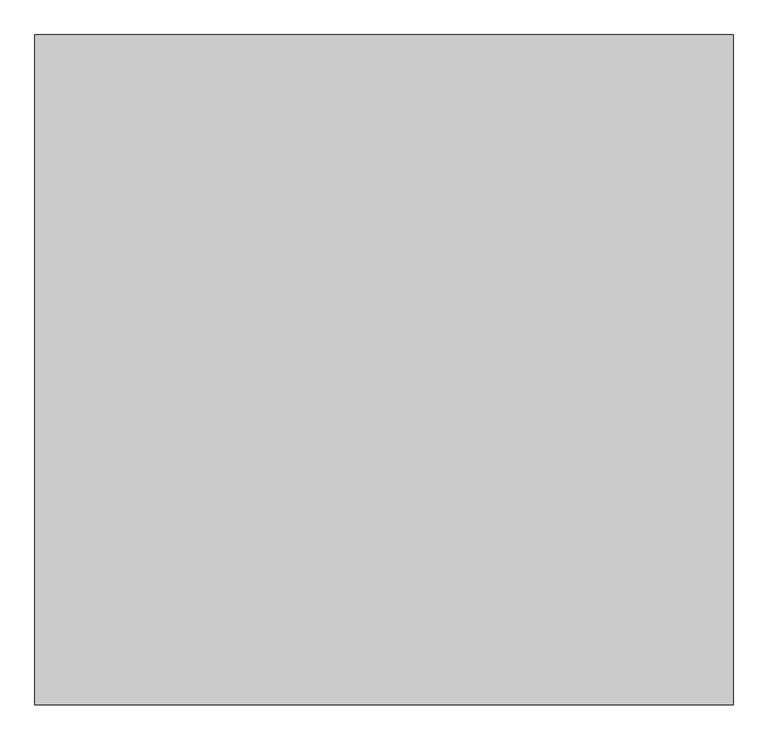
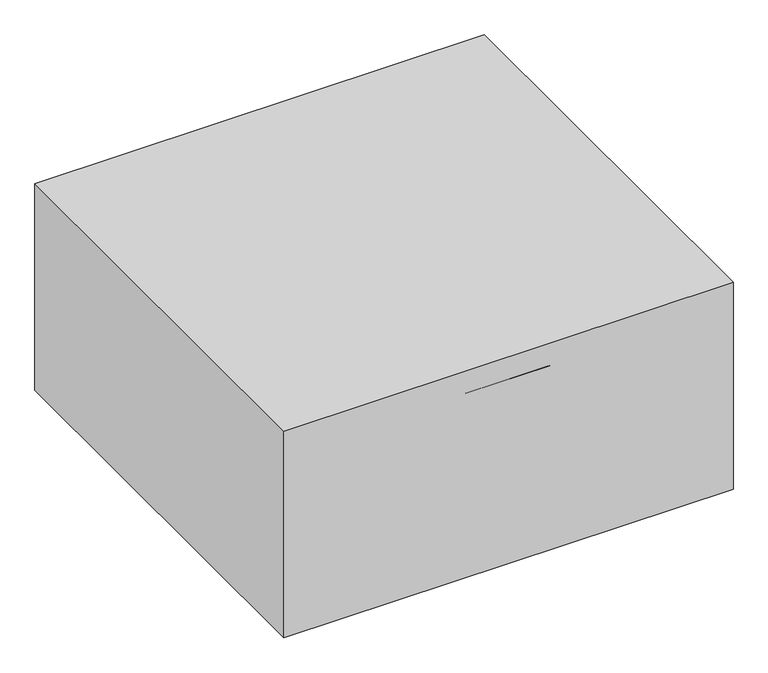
"""IFC4 building model written with IfcOpenShell, lengths in millimetres: furniture geometry, BIMHealth-Chair_Dialysis-LOD2A-v1 : BIMHealth-Chair_Dialysis-LOD2A-v1."""

from ifc_helpers import new_model, si_unit, point, frame, frame_2d, origin, origin_with_axes, place, context, project, spatial, polyline, circle_curve, trimmed, segment, composite_curve, outline, extrude, source, transform, mapped, element, save


def furniture_ab3baf91(model_context):
    return source(origin(), model_context, "Body", "SweptSolid", [
        extrude(outline(composite_curve([segment(trimmed(circle_curve(frame_2d((302.7936384, -540.0)), 7.5), [point((310.2936384, -540.0))], [point((295.2936384, -540.0))], False, "CARTESIAN"), True, "CONTINUOUS"), segment(trimmed(circle_curve(frame_2d((302.7936384, -540.0)), 7.5), [point((295.2936384, -540.0))], [point((310.2936384, -540.0))], False, "CARTESIAN"), True, "CONTINUOUS")], self_intersect=False)), frame((0.0, 0.0, 102.2775188), z_axis=(0.0, 0.0, 1.0), x_axis=(1.0, 0.0, 0.0)), (0.0, 0.0, 1.0), 20.0),
        extrude(outline(composite_curve([segment(polyline([(-569.2564005, 102.2775188), (-510.7435995, 102.2775188), (-510.7435995, 80.5470471)]), True, "CONTINUOUS"), segment(trimmed(circle_curve(frame_2d((-540.0, 40.0)), 50.0), [point((-510.7435995, 80.5470471))], [point((-569.2564005, 80.5470471))], True, "CARTESIAN"), True, "CONTINUOUS"), segment(polyline([(-569.2564005, 80.5470471), (-569.2564005, 102.2775188)]), True, "CONTINUOUS")], self_intersect=False)), frame((280.1679747, 0.0, 0.0), z_axis=(1.0, 0.0, 0.0), x_axis=(0.0, 1.0, 0.0)), (0.0, 0.0, 1.0), 45.2513275),
        extrude(outline(composite_curve([segment(polyline([(-580.0, 40.0), (-590.0, 40.0)]), True, "CONTINUOUS"), segment(trimmed(circle_curve(frame_2d((-540.0, 40.0)), 50.0), [point((-590.0, 40.0))], [point((-490.0, 40.0))], False, "CARTESIAN"), True, "CONTINUOUS"), segment(polyline([(-490.0, 40.0), (-500.0, 40.0)]), True, "CONTINUOUS"), segment(trimmed(circle_curve(frame_2d((-540.0, 40.0)), 40.0), [point((-500.0, 40.0))], [point((-580.0, 40.0))], True, "CARTESIAN"), True, "CONTINUOUS")], self_intersect=False)), frame((265.0, 0.0, 0.0), z_axis=(1.0, 0.0, 0.0), x_axis=(0.0, 1.0, 0.0)), (0.0, 0.0, 1.0), 75.0),
        extrude(outline(composite_curve([segment(trimmed(circle_curve(frame_2d((-540.0, 40.0)), 40.0), [point((-500.0, 40.0))], [point((-580.0, 40.0))], False, "CARTESIAN"), True, "CONTINUOUS"), segment(trimmed(circle_curve(frame_2d((-540.0, 40.0)), 40.0), [point((-580.0, 40.0))], [point((-500.0, 40.0))], False, "CARTESIAN"), True, "CONTINUOUS")], self_intersect=False)), frame((270.0, 0.0, 0.0), z_axis=(1.0, 0.0, 0.0), x_axis=(0.0, 1.0, 0.0)), (0.0, 0.0, 1.0), 20.0),
        extrude(outline(composite_curve([segment(trimmed(circle_curve(frame_2d((-540.0, 40.0)), 40.0), [point((-500.0, 40.0))], [point((-580.0, 40.0))], False, "CARTESIAN"), True, "CONTINUOUS"), segment(trimmed(circle_curve(frame_2d((-540.0, 40.0)), 40.0), [point((-580.0, 40.0))], [point((-500.0, 40.0))], False, "CARTESIAN"), True, "CONTINUOUS")], self_intersect=False)), frame((315.0, 0.0, 0.0), z_axis=(1.0, 0.0, 0.0), x_axis=(0.0, 1.0, 0.0)), (0.0, 0.0, 1.0), 20.0),
        extrude(outline(composite_curve([segment(trimmed(circle_curve(frame_2d((-302.7936384, -540.0)), 7.5), [point((-310.2936384, -540.0))], [point((-295.2936384, -540.0))], False, "CARTESIAN"), True, "CONTINUOUS"), segment(trimmed(circle_curve(frame_2d((-302.7936384, -540.0)), 7.5), [point((-295.2936384, -540.0))], [point((-310.2936384, -540.0))], False, "CARTESIAN"), True, "CONTINUOUS")], self_intersect=False)), frame((0.0, 0.0, 102.2775188), z_axis=(0.0, 0.0, 1.0), x_axis=(1.0, 0.0, 0.0)), (0.0, 0.0, 1.0), 20.0),
        extrude(outline(composite_curve([segment(polyline([(-569.2564005, 102.2775188), (-510.7435995, 102.2775188), (-510.7435995, 80.5470471)]), True, "CONTINUOUS"), segment(trimmed(circle_curve(frame_2d((-540.0, 40.0)), 50.0), [point((-510.7435995, 80.5470471))], [point((-569.2564005, 80.5470471))], True, "CARTESIAN"), True, "CONTINUOUS"), segment(polyline([(-569.2564005, 80.5470471), (-569.2564005, 102.2775188)]), True, "CONTINUOUS")], self_intersect=False)), frame((-325.4193021, 0.0, 0.0), z_axis=(1.0, 0.0, 0.0), x_axis=(0.0, 1.0, 0.0)), (0.0, 0.0, 1.0), 45.2513275),
        extrude(outline(composite_curve([segment(polyline([(-580.0, 40.0), (-590.0, 40.0)]), True, "CONTINUOUS"), segment(trimmed(circle_curve(frame_2d((-540.0, 40.0)), 50.0), [point((-590.0, 40.0))], [point((-490.0, 40.0))], False, "CARTESIAN"), True, "CONTINUOUS"), segment(polyline([(-490.0, 40.0), (-500.0, 40.0)]), True, "CONTINUOUS"), segment(trimmed(circle_curve(frame_2d((-540.0, 40.0)), 40.0), [point((-500.0, 40.0))], [point((-580.0, 40.0))], True, "CARTESIAN"), True, "CONTINUOUS")], self_intersect=False)), frame((-340.0, 0.0, 0.0), z_axis=(1.0, 0.0, 0.0), x_axis=(0.0, 1.0, 0.0)), (0.0, 0.0, 1.0), 75.0),
        extrude(outline(composite_curve([segment(trimmed(circle_curve(frame_2d((-540.0, 40.0)), 40.0), [point((-500.0, 40.0))], [point((-580.0, 40.0))], False, "CARTESIAN"), True, "CONTINUOUS"), segment(trimmed(circle_curve(frame_2d((-540.0, 40.0)), 40.0), [point((-580.0, 40.0))], [point((-500.0, 40.0))], False, "CARTESIAN"), True, "CONTINUOUS")], self_intersect=False)), frame((-290.0, 0.0, 0.0), z_axis=(1.0, 0.0, 0.0), x_axis=(0.0, 1.0, 0.0)), (0.0, 0.0, 1.0), 20.0),
        extrude(outline(composite_curve([segment(trimmed(circle_curve(frame_2d((-540.0, 40.0)), 40.0), [point((-500.0, 40.0))], [point((-580.0, 40.0))], False, "CARTESIAN"), True, "CONTINUOUS"), segment(trimmed(circle_curve(frame_2d((-540.0, 40.0)), 40.0), [point((-580.0, 40.0))], [point((-500.0, 40.0))], False, "CARTESIAN"), True, "CONTINUOUS")], self_intersect=False)), frame((-335.0, 0.0, 0.0), z_axis=(1.0, 0.0, 0.0), x_axis=(0.0, 1.0, 0.0)), (0.0, 0.0, 1.0), 20.0),
        extrude(outline(composite_curve([segment(trimmed(circle_curve(frame_2d((302.7936384, 540.0)), 7.5), [point((310.2936384, 540.0))], [point((295.2936384, 540.0))], False, "CARTESIAN"), True, "CONTINUOUS"), segment(trimmed(circle_curve(frame_2d((302.7936384, 540.0)), 7.5), [point((295.2936384, 540.0))], [point((310.2936384, 540.0))], False, "CARTESIAN"), True, "CONTINUOUS")], self_intersect=False)), frame((0.0, 0.0, 102.2775188), z_axis=(0.0, 0.0, 1.0), x_axis=(1.0, 0.0, 0.0)), (0.0, 0.0, 1.0), 20.0),
        extrude(outline(composite_curve([segment(polyline([(569.2564005, 102.2775188), (569.2564005, 80.5470471)]), True, "CONTINUOUS"), segment(trimmed(circle_curve(frame_2d((540.0, 40.0)), 50.0), [point((569.2564005, 80.5470471))], [point((510.7435995, 80.5470471))], True, "CARTESIAN"), True, "CONTINUOUS"), segment(polyline([(510.7435995, 80.5470471), (510.7435995, 102.2775188), (569.2564005, 102.2775188)]), True, "CONTINUOUS")], self_intersect=False)), frame((280.1679747, 0.0, 0.0), z_axis=(1.0, 0.0, 0.0), x_axis=(0.0, 1.0, 0.0)), (0.0, 0.0, 1.0), 45.2513275),
        extrude(outline(composite_curve([segment(trimmed(circle_curve(frame_2d((540.0, 40.0)), 40.0), [point((580.0, 40.0))], [point((500.0, 40.0))], True, "CARTESIAN"), True, "CONTINUOUS"), segment(polyline([(500.0, 40.0), (490.0, 40.0)]), True, "CONTINUOUS"), segment(trimmed(circle_curve(frame_2d((540.0, 40.0)), 50.0), [point((490.0, 40.0))], [point((590.0, 40.0))], False, "CARTESIAN"), True, "CONTINUOUS"), segment(polyline([(590.0, 40.0), (580.0, 40.0)]), True, "CONTINUOUS")], self_intersect=False)), frame((265.0, 0.0, 0.0), z_axis=(1.0, 0.0, 0.0), x_axis=(0.0, 1.0, 0.0)), (0.0, 0.0, 1.0), 75.0),
        extrude(outline(composite_curve([segment(trimmed(circle_curve(frame_2d((540.0, 40.0)), 40.0), [point((500.0, 40.0))], [point((580.0, 40.0))], False, "CARTESIAN"), True, "CONTINUOUS"), segment(trimmed(circle_curve(frame_2d((540.0, 40.0)), 40.0), [point((580.0, 40.0))], [point((500.0, 40.0))], False, "CARTESIAN"), True, "CONTINUOUS")], self_intersect=False)), frame((270.0, 0.0, 0.0), z_axis=(1.0, 0.0, 0.0), x_axis=(0.0, 1.0, 0.0)), (0.0, 0.0, 1.0), 20.0),
        extrude(outline(composite_curve([segment(trimmed(circle_curve(frame_2d((540.0, 40.0)), 40.0), [point((500.0, 40.0))], [point((580.0, 40.0))], False, "CARTESIAN"), True, "CONTINUOUS"), segment(trimmed(circle_curve(frame_2d((540.0, 40.0)), 40.0), [point((580.0, 40.0))], [point((500.0, 40.0))], False, "CARTESIAN"), True, "CONTINUOUS")], self_intersect=False)), frame((315.0, 0.0, 0.0), z_axis=(1.0, 0.0, 0.0), x_axis=(0.0, 1.0, 0.0)), (0.0, 0.0, 1.0), 20.0),
        extrude(outline(composite_curve([segment(trimmed(circle_curve(frame_2d((-302.7936384, 540.0)), 7.5), [point((-310.2936384, 540.0))], [point((-295.2936384, 540.0))], False, "CARTESIAN"), True, "CONTINUOUS"), segment(trimmed(circle_curve(frame_2d((-302.7936384, 540.0)), 7.5), [point((-295.2936384, 540.0))], [point((-310.2936384, 540.0))], False, "CARTESIAN"), True, "CONTINUOUS")], self_intersect=False)), frame((0.0, 0.0, 102.2775188), z_axis=(0.0, 0.0, 1.0), x_axis=(1.0, 0.0, 0.0)), (0.0, 0.0, 1.0), 20.0),
        extrude(outline(composite_curve([segment(polyline([(569.2564005, 102.2775188), (569.2564005, 80.5470471)]), True, "CONTINUOUS"), segment(trimmed(circle_curve(frame_2d((540.0, 40.0)), 50.0), [point((569.2564005, 80.5470471))], [point((510.7435995, 80.5470471))], True, "CARTESIAN"), True, "CONTINUOUS"), segment(polyline([(510.7435995, 80.5470471), (510.7435995, 102.2775188), (569.2564005, 102.2775188)]), True, "CONTINUOUS")], self_intersect=False)), frame((-325.4193021, 0.0, 0.0), z_axis=(1.0, 0.0, 0.0), x_axis=(0.0, 1.0, 0.0)), (0.0, 0.0, 1.0), 45.2513275),
        extrude(outline(composite_curve([segment(trimmed(circle_curve(frame_2d((540.0, 40.0)), 40.0), [point((580.0, 40.0))], [point((500.0, 40.0))], True, "CARTESIAN"), True, "CONTINUOUS"), segment(polyline([(500.0, 40.0), (490.0, 40.0)]), True, "CONTINUOUS"), segment(trimmed(circle_curve(frame_2d((540.0, 40.0)), 50.0), [point((490.0, 40.0))], [point((590.0, 40.0))], False, "CARTESIAN"), True, "CONTINUOUS"), segment(polyline([(590.0, 40.0), (580.0, 40.0)]), True, "CONTINUOUS")], self_intersect=False)), frame((-340.0, 0.0, 0.0), z_axis=(1.0, 0.0, 0.0), x_axis=(0.0, 1.0, 0.0)), (0.0, 0.0, 1.0), 75.0),
        extrude(outline(composite_curve([segment(trimmed(circle_curve(frame_2d((540.0, 40.0)), 40.0), [point((500.0, 40.0))], [point((580.0, 40.0))], False, "CARTESIAN"), True, "CONTINUOUS"), segment(trimmed(circle_curve(frame_2d((540.0, 40.0)), 40.0), [point((580.0, 40.0))], [point((500.0, 40.0))], False, "CARTESIAN"), True, "CONTINUOUS")], self_intersect=False)), frame((-290.0, 0.0, 0.0), z_axis=(1.0, 0.0, 0.0), x_axis=(0.0, 1.0, 0.0)), (0.0, 0.0, 1.0), 20.0),
        extrude(outline(composite_curve([segment(trimmed(circle_curve(frame_2d((540.0, 40.0)), 40.0), [point((500.0, 40.0))], [point((580.0, 40.0))], False, "CARTESIAN"), True, "CONTINUOUS"), segment(trimmed(circle_curve(frame_2d((540.0, 40.0)), 40.0), [point((580.0, 40.0))], [point((500.0, 40.0))], False, "CARTESIAN"), True, "CONTINUOUS")], self_intersect=False)), frame((-335.0, 0.0, 0.0), z_axis=(1.0, 0.0, 0.0), x_axis=(0.0, 1.0, 0.0)), (0.0, 0.0, 1.0), 20.0),
        extrude(outline(composite_curve([segment(trimmed(circle_curve(frame_2d((0.0, 30.0)), 30.0), [point((-29.9999999, 30.0))], [point((0.0, 60.0))], False, "CARTESIAN"), True, "CONTINUOUS"), segment(polyline([(0.0, 60.0), (165.0, 60.0)]), True, "CONTINUOUS"), segment(trimmed(circle_curve(frame_2d((165.0, 30.0)), 30.0), [point((165.0, 60.0))], [point((195.0000001, 30.0))], False, "CARTESIAN"), True, "CONTINUOUS"), segment(polyline([(195.0000001, 30.0), (195.0000001, -210.0)]), True, "CONTINUOUS"), segment(trimmed(circle_curve(frame_2d((165.0, -210.0)), 30.0), [point((195.0000001, -210.0))], [point((165.0, -240.0))], False, "CARTESIAN"), True, "CONTINUOUS"), segment(polyline([(165.0, -240.0), (0.0, -240.0)]), True, "CONTINUOUS"), segment(trimmed(circle_curve(frame_2d((0.0, -210.0)), 30.0), [point((0.0, -240.0))], [point((-29.9999999, -210.0))], False, "CARTESIAN"), True, "CONTINUOUS"), segment(polyline([(-29.9999999, -210.0), (-29.9999999, -90.0), (-29.9999999, 30.0)]), True, "CONTINUOUS")], self_intersect=False)), frame((-90.0, 970.9632437, 196.4316417), z_axis=(0.0, -0.8290375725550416, 0.559192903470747), x_axis=(0.0, 0.559192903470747, 0.8290375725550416)), (0.0, 0.0, 1.0), 35.0),
        extrude(outline(composite_curve([segment(trimmed(circle_curve(frame_2d((0.0, 150.0)), 150.0), [point((-116.0912704, 244.9885096))], [point((27.9748094, 297.3682803))], False, "CARTESIAN"), True, "CONTINUOUS"), segment(polyline([(27.9748094, 297.3682803), (427.3401871, 221.5570521)]), True, "CONTINUOUS"), segment(trimmed(circle_curve(frame_2d((427.3401871, 164.9885096)), 56.5685425), [point((427.3401871, 221.5570521))], [point((483.9087296, 164.9885096))], False, "CARTESIAN"), True, "CONTINUOUS"), segment(polyline([(483.9087296, 164.9885096), (483.9087296, -35.0114904), (483.9087296, -235.0114904)]), True, "CONTINUOUS"), segment(trimmed(circle_curve(frame_2d((427.3401871, -235.0114904)), 56.5685425), [point((483.9087296, -235.0114904))], [point((427.3401871, -291.5800329))], False, "CARTESIAN"), True, "CONTINUOUS"), segment(polyline([(427.3401871, -291.5800329), (1.8566102, -370.0114904)]), True, "CONTINUOUS"), segment(trimmed(circle_curve(frame_2d((0.0, -220.0229808)), 150.0), [point((1.8566102, -370.0114904))], [point((-116.0912704, -315.0114904))], False, "CARTESIAN"), True, "CONTINUOUS"), segment(polyline([(-116.0912704, -315.0114904), (-116.0912704, -35.0114904), (-116.0912704, 244.9885096)]), True, "CONTINUOUS")], self_intersect=False)), frame((-35.0114904, 501.6249069, 428.5690908), z_axis=(0.0, 0.5591929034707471, 0.8290375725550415), x_axis=(0.0, 0.8290375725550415, -0.5591929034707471)), (0.0, 0.0, 1.0), 75.0),
        extrude(outline(composite_curve([segment(trimmed(circle_curve(frame_2d((-581.8484412, 1210.6019485)), 12.5938728), [point((-591.7725485, 1202.8483861))], [point((-571.9069058, 1218.3331519))], False, "CARTESIAN"), True, "CONTINUOUS"), segment(polyline([(-571.9069058, 1218.3331519), (-454.5476267, 1067.4211445)]), True, "CONTINUOUS"), segment(trimmed(circle_curve(frame_2d((-464.4717339, 1059.6675821)), 12.5938728), [point((-454.5476267, 1067.4211445))], [point((-472.0470878, 1049.6067847))], False, "CARTESIAN"), True, "CONTINUOUS"), segment(polyline([(-472.0470878, 1049.6067847), (-591.7725485, 1202.8483861)]), True, "CONTINUOUS")], self_intersect=False)), frame((-200.0, 0.0, 0.0), z_axis=(1.0, 0.0, 0.0), x_axis=(0.0, 1.0, 0.0)), (0.0, 0.0, 1.0), 400.0),
        extrude(outline(composite_curve([segment(polyline([(160.0, 0.0), (0.0, 0.0)]), True, "CONTINUOUS"), segment(trimmed(circle_curve(frame_2d((0.0, 20.0)), 20.0), [point((0.0, 0.0))], [point((-20.0, 20.0))], False, "CARTESIAN"), True, "CONTINUOUS"), segment(trimmed(circle_curve(frame_2d((655.1074172, 20.0)), 675.1074172), [point((-20.0, 20.0))], [point((30.1028283, 275.2239969))], False, "CARTESIAN"), True, "CONTINUOUS"), segment(trimmed(circle_curve(frame_2d((80.0, 252.1825397)), 54.9603175), [point((30.1028283, 275.2239969))], [point((129.5798496, 275.8990954))], False, "CARTESIAN"), True, "CONTINUOUS"), segment(trimmed(circle_curve(frame_2d((-494.5967434, 20.0)), 674.5967434), [point((129.5798496, 275.8990954))], [point((180.0, 20.0))], False, "CARTESIAN"), True, "CONTINUOUS"), segment(trimmed(circle_curve(frame_2d((160.0, 20.0)), 20.0), [point((180.0, 20.0))], [point((160.0, 0.0))], False, "CARTESIAN"), True, "CONTINUOUS")], self_intersect=False)), frame((355.0, 156.827132, 727.9431933), z_axis=(0.0, 0.6713547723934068, 0.7411361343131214), x_axis=(1.0, 0.0, 0.0)), (0.0, 0.0, 1.0), 50.0),
        extrude(outline(composite_curve([segment(trimmed(circle_curve(frame_2d((0.0, 20.0)), 20.0), [point((-20.0, 20.0))], [point((0.0, 40.0))], False, "CARTESIAN"), True, "CONTINUOUS"), segment(trimmed(circle_curve(frame_2d((0.0, -634.5967434)), 674.5967434), [point((0.0, 40.0))], [point((255.8990953, -10.4201504))], False, "CARTESIAN"), True, "CONTINUOUS"), segment(trimmed(circle_curve(frame_2d((232.1825396, -60.0)), 54.9603175), [point((255.8990953, -10.4201504))], [point((255.2239968, -109.8971717))], False, "CARTESIAN"), True, "CONTINUOUS"), segment(trimmed(circle_curve(frame_2d((0.0, 515.1074172)), 675.1074172), [point((255.2239968, -109.8971717))], [point((0.0, -160.0))], False, "CARTESIAN"), True, "CONTINUOUS"), segment(trimmed(circle_curve(frame_2d((0.0, -140.0)), 20.0), [point((0.0, -160.0))], [point((-20.0, -140.0))], False, "CARTESIAN"), True, "CONTINUOUS"), segment(polyline([(-20.0, -140.0), (-20.0, 20.0)]), True, "CONTINUOUS")], self_intersect=False)), frame((-495.0, 171.6498547, 714.5160978), z_axis=(0.0, 0.6713547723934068, 0.7411361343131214), x_axis=(0.0, 0.7411361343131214, -0.6713547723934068)), (0.0, 0.0, 1.0), 50.0),
        extrude(outline(composite_curve([segment(polyline([(335.0, -394.2267516), (335.0, 168.6503365)]), True, "CONTINUOUS"), segment(trimmed(circle_curve(frame_2d((355.0, 168.6503365)), 20.0), [point((335.0, 168.6503365))], [point((355.0, 188.6503365))], False, "CARTESIAN"), True, "CONTINUOUS"), segment(polyline([(355.0, 188.6503365), (515.0, 188.6503365)]), True, "CONTINUOUS"), segment(trimmed(circle_curve(frame_2d((515.0, 168.6503365)), 20.0), [point((515.0, 188.6503365))], [point((535.0, 168.6503365))], False, "CARTESIAN"), True, "CONTINUOUS"), segment(polyline([(535.0, 168.6503365), (535.0, -394.2267516)]), True, "CONTINUOUS"), segment(trimmed(circle_curve(frame_2d((515.0, -394.2267516)), 20.0), [point((535.0, -394.2267516))], [point((515.0, -414.2267516))], False, "CARTESIAN"), True, "CONTINUOUS"), segment(polyline([(515.0, -414.2267516), (355.0, -414.2267516)]), True, "CONTINUOUS"), segment(trimmed(circle_curve(frame_2d((355.0, -394.2267516)), 20.0), [point((355.0, -414.2267516))], [point((335.0, -394.2267516))], False, "CARTESIAN"), True, "CONTINUOUS")], self_intersect=False)), frame((0.0, 0.0, 765.0), z_axis=(0.0, 0.0, 1.0), x_axis=(1.0, 0.0, 0.0)), (0.0, 0.0, 1.0), 75.0),
        extrude(outline(composite_curve([segment(trimmed(circle_curve(frame_2d((-355.0, -394.2267516)), 20.0), [point((-335.0, -394.2267516))], [point((-355.0, -414.2267516))], False, "CARTESIAN"), True, "CONTINUOUS"), segment(polyline([(-355.0, -414.2267516), (-515.0, -414.2267516)]), True, "CONTINUOUS"), segment(trimmed(circle_curve(frame_2d((-515.0, -394.2267516)), 20.0), [point((-515.0, -414.2267516))], [point((-535.0, -394.2267516))], False, "CARTESIAN"), True, "CONTINUOUS"), segment(polyline([(-535.0, -394.2267516), (-535.0, 168.6503365)]), True, "CONTINUOUS"), segment(trimmed(circle_curve(frame_2d((-515.0, 168.6503365)), 20.0), [point((-535.0, 168.6503365))], [point((-515.0, 188.6503365))], False, "CARTESIAN"), True, "CONTINUOUS"), segment(polyline([(-515.0, 188.6503365), (-355.0, 188.6503365)]), True, "CONTINUOUS"), segment(trimmed(circle_curve(frame_2d((-355.0, 168.6503365)), 20.0), [point((-355.0, 188.6503365))], [point((-335.0, 168.6503365))], False, "CARTESIAN"), True, "CONTINUOUS"), segment(polyline([(-335.0, 168.6503365), (-335.0, -394.2267516)]), True, "CONTINUOUS")], self_intersect=False)), frame((0.0, 0.0, 765.0), z_axis=(0.0, 0.0, 1.0), x_axis=(1.0, 0.0, 0.0)), (0.0, 0.0, 1.0), 75.0),
        extrude(outline(composite_curve([segment(polyline([(0.0, 0.0), (-700.0, 0.0)]), True, "CONTINUOUS"), segment(trimmed(circle_curve(frame_2d((-700.0, 100.0)), 100.0), [point((-700.0, 0.0))], [point((-800.0, 100.0))], False, "CARTESIAN"), True, "CONTINUOUS"), segment(polyline([(-800.0, 100.0), (-800.0, 570.0)]), True, "CONTINUOUS"), segment(trimmed(circle_curve(frame_2d((-700.0, 570.0)), 100.0), [point((-800.0, 570.0))], [point((-700.0, 670.0))], False, "CARTESIAN"), True, "CONTINUOUS"), segment(polyline([(-700.0, 670.0), (0.0, 670.0), (0.0, 0.0)]), True, "CONTINUOUS")], self_intersect=False)), frame((335.0, -191.7639885, 528.4338525), z_axis=(0.0, 0.7880107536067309, 0.615661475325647), x_axis=(0.0, 0.615661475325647, -0.7880107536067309)), (0.0, 0.0, 1.0), 100.0),
        extrude(outline(composite_curve([segment(polyline([(387.0370869, 490.0), (-112.9629131, 490.0)]), True, "CONTINUOUS"), segment(trimmed(circle_curve(frame_2d((-112.9629131, 540.0)), 50.0), [point((-112.9629131, 490.0))], [point((-112.9629131, 590.0))], False, "CARTESIAN"), True, "CONTINUOUS"), segment(polyline([(-112.9629131, 590.0), (387.0370869, 590.0)]), True, "CONTINUOUS"), segment(trimmed(circle_curve(frame_2d((387.0370869, 540.0)), 50.0), [point((387.0370869, 590.0))], [point((387.0370869, 490.0))], False, "CARTESIAN"), True, "CONTINUOUS")], self_intersect=False)), frame((-335.0, 0.0, 0.0), z_axis=(1.0, 0.0, 0.0), x_axis=(0.0, 1.0, 0.0)), (0.0, 0.0, 1.0), 670.0),
        extrude(outline(polyline([(-200.0, 337.0370869), (0.0, 337.0370869), (200.0, 337.0370869), (200.0, -62.9629131), (-200.0, -62.9629131), (-200.0, 337.0370869)])), frame((0.0, 0.0, 331.5685425), z_axis=(0.0, 0.0, 1.0), x_axis=(1.0, 0.0, 0.0)), (0.0, 0.0, 1.0), 158.4314575),
        extrude(outline(composite_curve([segment(polyline([(600.0, 125.0), (-600.0, 125.0), (-600.0, 200.0)]), True, "CONTINUOUS"), segment(trimmed(circle_curve(frame_2d((-564.6446609, 200.0)), 35.3553391), [point((-600.0, 200.0))], [point((-579.2083698, 232.2164303))], False, "CARTESIAN"), True, "CONTINUOUS"), segment(polyline([(-579.2083698, 232.2164303), (-206.5685425, 331.5685425), (543.4314575, 331.5685425)]), True, "CONTINUOUS"), segment(trimmed(circle_curve(frame_2d((543.4314575, 275.0)), 56.5685425), [point((543.4314575, 331.5685425))], [point((600.0, 275.0))], False, "CARTESIAN"), True, "CONTINUOUS"), segment(polyline([(600.0, 275.0), (600.0, 125.0)]), True, "CONTINUOUS")], self_intersect=False)), frame((-335.0, 0.0, 0.0), z_axis=(1.0, 0.0, 0.0), x_axis=(0.0, 1.0, 0.0)), (0.0, 0.0, 1.0), 670.0),
        extrude(outline(polyline([(-1335.0, -684.2931688), (-1335.0, 1880.0058599), (1335.0, 1880.0058599), (1335.0, -684.2931688), (-1335.0, -684.2931688)])), origin_with_axes(), (0.0, 0.0, 1.0), 1300.0),
    ])


if __name__ == "__main__":
    model = new_model("IFC4")
    model_context = context("Model", 3, world=origin())
    ifc_project = project(units=[si_unit("LENGTHUNIT", "METRE", prefix="MILLI")], contexts=[model_context])
    site = spatial("IfcSite", under=ifc_project)
    building = spatial("IfcBuilding", under=site)
    placement = place(None, origin())
    furniture_shape = furniture_ab3baf91(model_context)
    element("IfcFurniture", 1, ObjectType="BIMHealth-Chair_Dialysis-LOD2A-v1 : BIMHealth-Chair_Dialysis-LOD2A-v1", at=placement, inside=building, context=model_context, shape_type="MappedRepresentation", body=[
        mapped(furniture_shape, transform((0.0, 0.0, 0.0), x_axis=(1.0, 0.0, 0.0), y_axis=(0.0, 1.0, 0.0), z_axis=(0.0, 0.0, 1.0))),
    ])
    save(model, "model.ifc")
